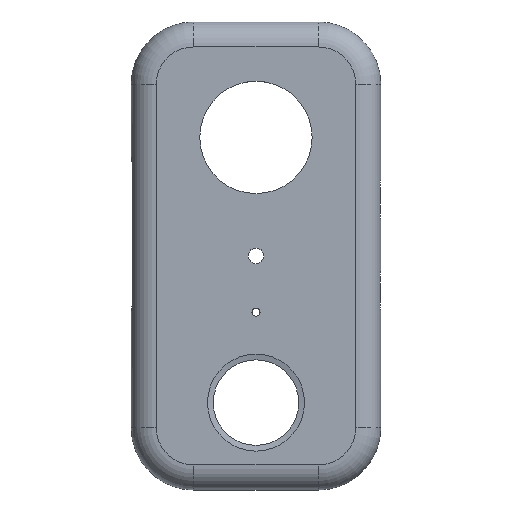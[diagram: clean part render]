
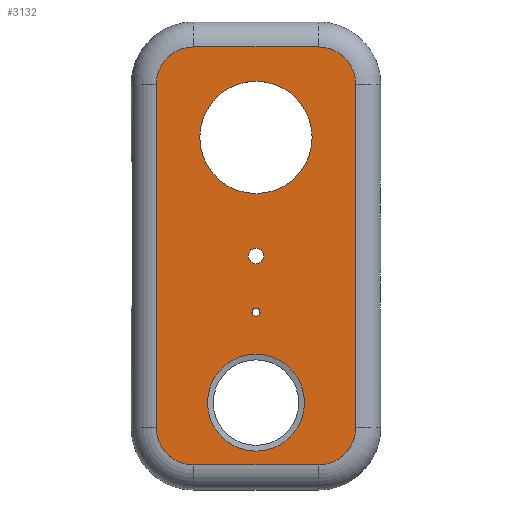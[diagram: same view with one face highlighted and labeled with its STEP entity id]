
A CAD part, top view. The second image highlights one B-rep face of the part: STEP entity #3132.
In plain terms, the highlighted planar face has unit normal (0, 0, 1).
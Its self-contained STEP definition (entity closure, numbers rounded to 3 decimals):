
#56=FACE_BOUND('',#1100,.T.);
#57=FACE_BOUND('',#1101,.T.);
#58=FACE_BOUND('',#1102,.T.);
#59=FACE_BOUND('',#1103,.T.);
#155=PLANE('',#3460);
#380=LINE('',#5745,#637);
#383=LINE('',#5760,#640);
#384=LINE('',#5764,#641);
#385=LINE('',#5768,#642);
#637=VECTOR('',#4253,10.);
#640=VECTOR('',#4270,10.);
#641=VECTOR('',#4273,10.);
#642=VECTOR('',#4278,10.);
#889=FACE_OUTER_BOUND('',#1099,.T.);
#1099=EDGE_LOOP('',(#2687,#2688,#2689,#2690,#2691,#2692,#2693,#2694));
#1100=EDGE_LOOP('',(#2695));
#1101=EDGE_LOOP('',(#2696));
#1102=EDGE_LOOP('',(#2697));
#1103=EDGE_LOOP('',(#2698));
#1288=CIRCLE('',#3457,15.55);
#1290=CIRCLE('',#3461,12.);
#1291=CIRCLE('',#3462,12.);
#1292=CIRCLE('',#3463,12.);
#1293=CIRCLE('',#3464,12.);
#1294=CIRCLE('',#3465,18.);
#1295=CIRCLE('',#3466,2.505);
#1296=CIRCLE('',#3467,1.301);
#1570=VERTEX_POINT('',#5742);
#1571=VERTEX_POINT('',#5744);
#1572=VERTEX_POINT('',#5748);
#1574=VERTEX_POINT('',#5756);
#1575=VERTEX_POINT('',#5757);
#1576=VERTEX_POINT('',#5759);
#1577=VERTEX_POINT('',#5761);
#1578=VERTEX_POINT('',#5763);
#1579=VERTEX_POINT('',#5766);
#1580=VERTEX_POINT('',#5769);
#1581=VERTEX_POINT('',#5771);
#1582=VERTEX_POINT('',#5773);
#1971=EDGE_CURVE('',#1570,#1571,#380,.T.);
#1973=EDGE_CURVE('',#1572,#1572,#1288,.T.);
#1977=EDGE_CURVE('',#1574,#1575,#1290,.T.);
#1978=EDGE_CURVE('',#1576,#1574,#383,.T.);
#1979=EDGE_CURVE('',#1577,#1576,#1291,.T.);
#1980=EDGE_CURVE('',#1578,#1577,#384,.T.);
#1981=EDGE_CURVE('',#1571,#1578,#1292,.T.);
#1982=EDGE_CURVE('',#1579,#1570,#1293,.T.);
#1983=EDGE_CURVE('',#1575,#1579,#385,.T.);
#1984=EDGE_CURVE('',#1580,#1580,#1294,.T.);
#1985=EDGE_CURVE('',#1581,#1581,#1295,.T.);
#1986=EDGE_CURVE('',#1582,#1582,#1296,.T.);
#2687=ORIENTED_EDGE('',*,*,#1977,.F.);
#2688=ORIENTED_EDGE('',*,*,#1978,.F.);
#2689=ORIENTED_EDGE('',*,*,#1979,.F.);
#2690=ORIENTED_EDGE('',*,*,#1980,.F.);
#2691=ORIENTED_EDGE('',*,*,#1981,.F.);
#2692=ORIENTED_EDGE('',*,*,#1971,.F.);
#2693=ORIENTED_EDGE('',*,*,#1982,.F.);
#2694=ORIENTED_EDGE('',*,*,#1983,.F.);
#2695=ORIENTED_EDGE('',*,*,#1984,.T.);
#2696=ORIENTED_EDGE('',*,*,#1985,.T.);
#2697=ORIENTED_EDGE('',*,*,#1986,.T.);
#2698=ORIENTED_EDGE('',*,*,#1973,.F.);
#3132=ADVANCED_FACE('',(#889,#56,#57,#58,#59),#155,.T.);
#3457=AXIS2_PLACEMENT_3D('',#5749,#4258,#4259);
#3460=AXIS2_PLACEMENT_3D('',#5755,#4266,#4267);
#3461=AXIS2_PLACEMENT_3D('',#5758,#4268,#4269);
#3462=AXIS2_PLACEMENT_3D('',#5762,#4271,#4272);
#3463=AXIS2_PLACEMENT_3D('',#5765,#4274,#4275);
#3464=AXIS2_PLACEMENT_3D('',#5767,#4276,#4277);
#3465=AXIS2_PLACEMENT_3D('',#5770,#4279,#4280);
#3466=AXIS2_PLACEMENT_3D('',#5772,#4281,#4282);
#3467=AXIS2_PLACEMENT_3D('',#5774,#4283,#4284);
#4253=DIRECTION('',(0.,1.,0.));
#4258=DIRECTION('center_axis',(0.,0.,1.));
#4259=DIRECTION('ref_axis',(1.,0.,0.));
#4266=DIRECTION('center_axis',(0.,0.,1.));
#4267=DIRECTION('ref_axis',(1.,0.,0.));
#4268=DIRECTION('center_axis',(0.,0.,-1.));
#4269=DIRECTION('ref_axis',(0.707,-0.707,0.));
#4270=DIRECTION('',(0.,-1.,0.));
#4271=DIRECTION('center_axis',(0.,0.,-1.));
#4272=DIRECTION('ref_axis',(0.707,0.707,0.));
#4273=DIRECTION('',(1.,0.,0.));
#4274=DIRECTION('center_axis',(0.,0.,-1.));
#4275=DIRECTION('ref_axis',(-0.707,0.707,0.));
#4276=DIRECTION('center_axis',(0.,0.,-1.));
#4277=DIRECTION('ref_axis',(-0.707,-0.707,0.));
#4278=DIRECTION('',(-1.,0.,0.));
#4279=DIRECTION('center_axis',(0.,0.,-1.));
#4280=DIRECTION('ref_axis',(-1.,0.,0.));
#4281=DIRECTION('center_axis',(0.,0.,-1.));
#4282=DIRECTION('ref_axis',(1.,0.,0.));
#4283=DIRECTION('center_axis',(0.,0.,-1.));
#4284=DIRECTION('ref_axis',(1.,0.,0.));
#5742=CARTESIAN_POINT('',(-32.,-55.,0.));
#5744=CARTESIAN_POINT('',(-32.,55.,0.));
#5745=CARTESIAN_POINT('',(-32.,37.5,0.));
#5748=CARTESIAN_POINT('',(-15.55,-47.,0.));
#5749=CARTESIAN_POINT('Origin',(0.,-47.,0.));
#5755=CARTESIAN_POINT('Origin',(0.,0.,0.));
#5756=CARTESIAN_POINT('',(32.,-55.,0.));
#5757=CARTESIAN_POINT('',(20.,-67.,0.));
#5758=CARTESIAN_POINT('Origin',(20.,-55.,0.));
#5759=CARTESIAN_POINT('',(32.,55.,0.));
#5760=CARTESIAN_POINT('',(32.,-37.5,0.));
#5761=CARTESIAN_POINT('',(20.,67.,0.));
#5762=CARTESIAN_POINT('Origin',(20.,55.,0.));
#5763=CARTESIAN_POINT('',(-20.,67.,0.));
#5764=CARTESIAN_POINT('',(20.,67.,0.));
#5765=CARTESIAN_POINT('Origin',(-20.,55.,0.));
#5766=CARTESIAN_POINT('',(-20.,-67.,0.));
#5767=CARTESIAN_POINT('Origin',(-20.,-55.,0.));
#5768=CARTESIAN_POINT('',(-20.,-67.,0.));
#5769=CARTESIAN_POINT('',(17.986,38.,0.));
#5770=CARTESIAN_POINT('Origin',(-0.014,38.,0.));
#5771=CARTESIAN_POINT('',(-2.505,0.,0.));
#5772=CARTESIAN_POINT('Origin',(0.,0.,0.));
#5773=CARTESIAN_POINT('',(-1.301,-18.001,0.));
#5774=CARTESIAN_POINT('Origin',(0.,-18.001,
0.));
